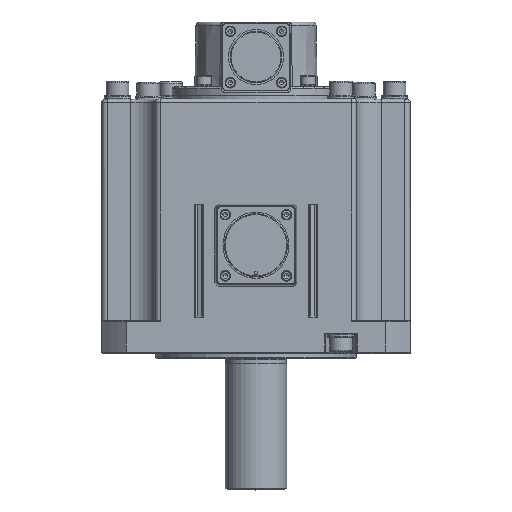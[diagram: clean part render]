
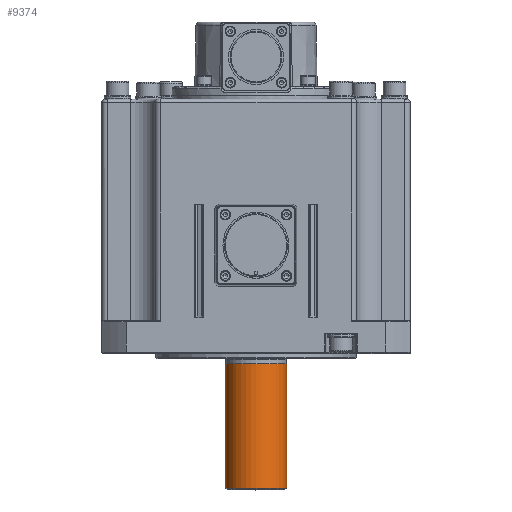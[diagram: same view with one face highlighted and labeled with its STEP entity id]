
A CAD part, top view. The second image highlights one B-rep face of the part: STEP entity #9374.
In plain terms, the highlighted cylindrical face has radius 17.5 mm (diameter 35 mm), a full revolution.
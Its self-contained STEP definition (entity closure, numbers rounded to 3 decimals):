
#9214=CARTESIAN_POINT('',(-37.405,-161.109,112.42));
#9215=VERTEX_POINT('',#9214);
#9216=CARTESIAN_POINT('',(-19.905,-161.109,112.42));
#9217=DIRECTION('',(0.0,1.0,0.0));
#9218=DIRECTION('',(-1.0,0.0,0.0));
#9219=AXIS2_PLACEMENT_3D('',#9216,#9217,#9218);
#9220=CIRCLE('',#9219,17.5);
#9221=EDGE_CURVE('',#9215,#9215,#9220,.T.);
#9234=CARTESIAN_POINT('',(-37.405,-90.109,112.42));
#9235=VERTEX_POINT('',#9234);
#9236=CARTESIAN_POINT('',(-19.905,-90.109,112.42));
#9237=DIRECTION('',(0.0,1.0,0.0));
#9238=DIRECTION('',(-1.0,0.0,0.0));
#9239=AXIS2_PLACEMENT_3D('',#9236,#9237,#9238);
#9240=CIRCLE('',#9239,17.5);
#9241=EDGE_CURVE('',#9235,#9235,#9240,.T.);
#9363=CARTESIAN_POINT('',(-19.905,-125.609,112.42));
#9364=DIRECTION('',(0.0,1.0,0.0));
#9365=DIRECTION('',(-1.0,0.0,0.0));
#9366=AXIS2_PLACEMENT_3D('',#9363,#9364,#9365);
#9367=CYLINDRICAL_SURFACE('',#9366,17.5);
#9368=ORIENTED_EDGE('',*,*,#9241,.F.);
#9369=EDGE_LOOP('',(#9368));
#9370=FACE_OUTER_BOUND('',#9369,.T.);
#9371=ORIENTED_EDGE('',*,*,#9221,.T.);
#9372=EDGE_LOOP('',(#9371));
#9373=FACE_BOUND('',#9372,.T.);
#9374=ADVANCED_FACE('',(#9370,#9373),#9367,.T.);
